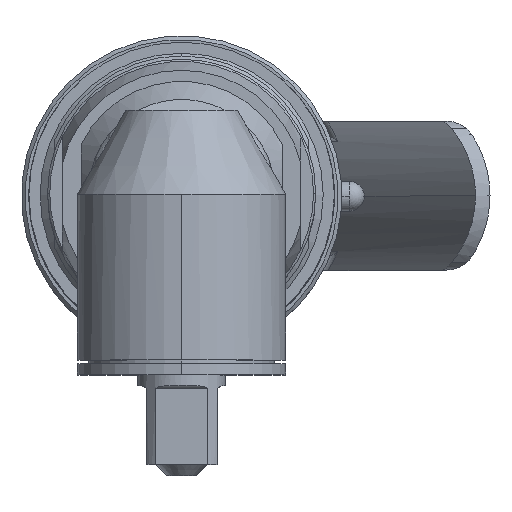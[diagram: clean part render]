
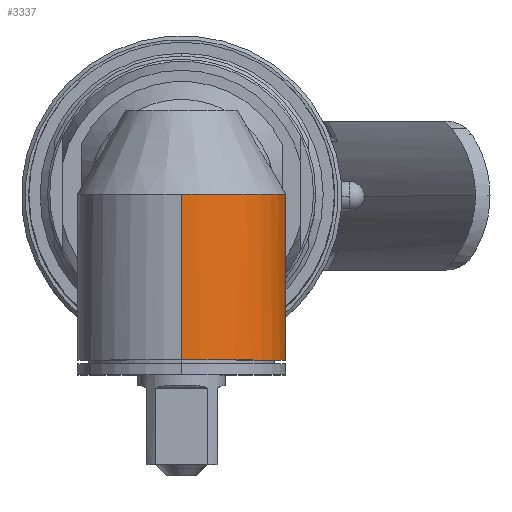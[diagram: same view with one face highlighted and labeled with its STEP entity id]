
A CAD part, top view. The second image highlights one B-rep face of the part: STEP entity #3337.
In plain terms, the highlighted cylindrical face has radius 14 mm (diameter 28 mm), a partial arc.
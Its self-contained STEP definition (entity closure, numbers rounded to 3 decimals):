
#3322 = ORIENTED_EDGE ( 'NONE', *, *, #3323, .T. ) ;
#3323 = EDGE_CURVE ( 'NONE', #3351, #3324, #20353, .T. ) ;
#3324 = VERTEX_POINT ( 'NONE', #20354 ) ;
#3325 = ORIENTED_EDGE ( 'NONE', *, *, #3326, .F. ) ;
#3326 = EDGE_CURVE ( 'NONE', #3327, #3324, #20361, .T. ) ;
#3327 = VERTEX_POINT ( 'NONE', #20356 ) ;
#3328 = ORIENTED_EDGE ( 'NONE', *, *, #3329, .F. ) ;
#3329 = EDGE_CURVE ( 'NONE', #3341, #3327, #20396, .T. ) ;
#3337 = ADVANCED_FACE ( 'NONE', ( #20445 ), #20443, .T. ) ;
#3338 = EDGE_LOOP ( 'NONE', ( #3339, #3343, #3346, #3349, #3322, #3325, #3328 ) ) ;
#3339 = ORIENTED_EDGE ( 'NONE', *, *, #3340, .T. ) ;
#3340 = EDGE_CURVE ( 'NONE', #3341, #3342, #20438, .T. ) ;
#3341 = VERTEX_POINT ( 'NONE', #20434 ) ;
#3342 = VERTEX_POINT ( 'NONE', #20433 ) ;
#3343 = ORIENTED_EDGE ( 'NONE', *, *, #3344, .T. ) ;
#3344 = EDGE_CURVE ( 'NONE', #3342, #3345, #20432, .T. ) ;
#3345 = VERTEX_POINT ( 'NONE', #20428 ) ;
#3346 = ORIENTED_EDGE ( 'NONE', *, *, #3347, .T. ) ;
#3347 = EDGE_CURVE ( 'NONE', #3345, #3348, #20425, .T. ) ;
#3348 = VERTEX_POINT ( 'NONE', #20427 ) ;
#3349 = ORIENTED_EDGE ( 'NONE', *, *, #3350, .F. ) ;
#3350 = EDGE_CURVE ( 'NONE', #3351, #3348, #20426, .T. ) ;
#3351 = VERTEX_POINT ( 'NONE', #20465 ) ;
#20352 = CARTESIAN_POINT ( 'NONE',  ( 4.323, -11.734, -13.32 ) ) ;
#20353 = B_SPLINE_CURVE_WITH_KNOTS ( 'NONE', 3,
 ( #20355, #20352, #20420, #20419, #20418, #20417, #20416, #20415, #20414, #20413, #20412, #20411, #20410, #20409, #20408, #20407, #20406, #20405, #20404, #20403, #20402, #20401, #20400, #20399, #20398, #20397 ),
 .UNSPECIFIED., .F., .F.,
 ( 4, 2, 2, 2, 2, 2, 2, 2, 2, 2, 2, 2, 4 ),
 ( 0.025, 0.026, 0.027, 0.029, 0.03, 0.032, 0.034, 0.036, 0.038, 0.039, 0.04, 0.041, 0.042 ),
 .UNSPECIFIED. ) ;
#20354 = CARTESIAN_POINT ( 'NONE',  ( 12.497, -0.258, -6.31 ) ) ;
#20355 = CARTESIAN_POINT ( 'NONE',  ( 4., -11.843, -13.416 ) ) ;
#20356 = CARTESIAN_POINT ( 'NONE',  ( 0., -0.258, 14. ) ) ;
#20357 = DIRECTION ( 'NONE',  ( 0., 0., 1. ) ) ;
#20358 = DIRECTION ( 'NONE',  ( 0., 1., 0. ) ) ;
#20359 = CARTESIAN_POINT ( 'NONE',  ( 0., -0.258, 0. ) ) ;
#20360 = AXIS2_PLACEMENT_3D ( 'NONE', #20359, #20358, #20357 ) ;
#20361 = CIRCLE ( 'NONE', #20360, 14. ) ;
#20393 = DIRECTION ( 'NONE',  ( 0., 1., 0. ) ) ;
#20394 = VECTOR ( 'NONE', #20393, 1000. ) ;
#20395 = CARTESIAN_POINT ( 'NONE',  ( 0., 18.453, 14. ) ) ;
#20396 = LINE ( 'NONE', #20395, #20394 ) ;
#20397 = CARTESIAN_POINT ( 'NONE',  ( 12.497, -0.258, -6.31 ) ) ;
#20398 = CARTESIAN_POINT ( 'NONE',  ( 12.49, -0.617, -6.325 ) ) ;
#20399 = CARTESIAN_POINT ( 'NONE',  ( 12.467, -0.974, -6.371 ) ) ;
#20400 = CARTESIAN_POINT ( 'NONE',  ( 12.393, -1.666, -6.512 ) ) ;
#20401 = CARTESIAN_POINT ( 'NONE',  ( 12.343, -2.002, -6.608 ) ) ;
#20402 = CARTESIAN_POINT ( 'NONE',  ( 12.218, -2.66, -6.836 ) ) ;
#20403 = CARTESIAN_POINT ( 'NONE',  ( 12.143, -2.984, -6.97 ) ) ;
#20404 = CARTESIAN_POINT ( 'NONE',  ( 11.972, -3.611, -7.26 ) ) ;
#20405 = CARTESIAN_POINT ( 'NONE',  ( 11.876, -3.914, -7.417 ) ) ;
#20406 = CARTESIAN_POINT ( 'NONE',  ( 11.559, -4.799, -7.908 ) ) ;
#20407 = CARTESIAN_POINT ( 'NONE',  ( 11.31, -5.357, -8.264 ) ) ;
#20408 = CARTESIAN_POINT ( 'NONE',  ( 10.736, -6.432, -8.998 ) ) ;
#20409 = CARTESIAN_POINT ( 'NONE',  ( 10.413, -6.941, -9.372 ) ) ;
#20410 = CARTESIAN_POINT ( 'NONE',  ( 9.701, -7.906, -10.107 ) ) ;
#20411 = CARTESIAN_POINT ( 'NONE',  ( 9.31, -8.363, -10.471 ) ) ;
#20412 = CARTESIAN_POINT ( 'NONE',  ( 8.666, -9.014, -10.999 ) ) ;
#20413 = CARTESIAN_POINT ( 'NONE',  ( 8.441, -9.225, -11.173 ) ) ;
#20414 = CARTESIAN_POINT ( 'NONE',  ( 7.971, -9.634, -11.513 ) ) ;
#20415 = CARTESIAN_POINT ( 'NONE',  ( 7.725, -9.833, -11.68 ) ) ;
#20416 = CARTESIAN_POINT ( 'NONE',  ( 6.964, -10.399, -12.16 ) ) ;
#20417 = CARTESIAN_POINT ( 'NONE',  ( 6.424, -10.743, -12.455 ) ) ;
#20418 = CARTESIAN_POINT ( 'NONE',  ( 5.558, -11.201, -12.853 ) ) ;
#20419 = CARTESIAN_POINT ( 'NONE',  ( 5.26, -11.345, -12.979 ) ) ;
#20420 = CARTESIAN_POINT ( 'NONE',  ( 4.642, -11.611, -13.212 ) ) ;
#20421 = CARTESIAN_POINT ( 'NONE',  ( 4., -18.337, -13.416 ) ) ;
#20422 = CARTESIAN_POINT ( 'NONE',  ( 2.7, -18.113, -13.804 ) ) ;
#20423 = CARTESIAN_POINT ( 'NONE',  ( 1.357, -18., -14. ) ) ;
#20424 = CARTESIAN_POINT ( 'NONE',  ( 0., -18., -14. ) ) ;
#20425 =( BOUNDED_CURVE ( )  B_SPLINE_CURVE ( 3, ( #20424, #20423, #20422, #20421 ),
 .UNSPECIFIED., .F., .F. ) 
 B_SPLINE_CURVE_WITH_KNOTS ( ( 4, 4 ),
 ( 0., 0.29 ),
 .UNSPECIFIED. ) 
 CURVE ( )  GEOMETRIC_REPRESENTATION_ITEM ( )  RATIONAL_B_SPLINE_CURVE ( ( 1., 0.993, 0.993, 1. ) ) 
 REPRESENTATION_ITEM ( '' )  );
#20426 = LINE ( 'NONE', #20468, #20467 ) ;
#20427 = CARTESIAN_POINT ( 'NONE',  ( 4., -18.337, -13.416 ) ) ;
#20428 = CARTESIAN_POINT ( 'NONE',  ( 0., -18., -14. ) ) ;
#20429 = DIRECTION ( 'NONE',  ( 0., 1., 0. ) ) ;
#20430 = VECTOR ( 'NONE', #20429, 1000. ) ;
#20431 = CARTESIAN_POINT ( 'NONE',  ( 0., 18.453, -14. ) ) ;
#20432 = LINE ( 'NONE', #20431, #20430 ) ;
#20433 = CARTESIAN_POINT ( 'NONE',  ( 0., -22.5, -14. ) ) ;
#20434 = CARTESIAN_POINT ( 'NONE',  ( 0., -22.5, 14. ) ) ;
#20435 = DIRECTION ( 'NONE',  ( 0., 0., 1. ) ) ;
#20436 = DIRECTION ( 'NONE',  ( 0., 1., 0. ) ) ;
#20437 = AXIS2_PLACEMENT_3D ( 'NONE', #20444, #20436, #20435 ) ;
#20438 = CIRCLE ( 'NONE', #20437, 14. ) ;
#20439 = DIRECTION ( 'NONE',  ( 0., 0., 1. ) ) ;
#20440 = DIRECTION ( 'NONE',  ( 0., 1., 0. ) ) ;
#20441 = CARTESIAN_POINT ( 'NONE',  ( 0., 18.453, 0. ) ) ;
#20442 = AXIS2_PLACEMENT_3D ( 'NONE', #20441, #20440, #20439 ) ;
#20443 = CYLINDRICAL_SURFACE ( 'NONE', #20442, 14. ) ;
#20444 = CARTESIAN_POINT ( 'NONE',  ( 0., -22.5, 0. ) ) ;
#20445 = FACE_OUTER_BOUND ( 'NONE', #3338, .T. ) ;
#20465 = CARTESIAN_POINT ( 'NONE',  ( 4., -11.843, -13.416 ) ) ;
#20466 = DIRECTION ( 'NONE',  ( 0., -1., 0. ) ) ;
#20467 = VECTOR ( 'NONE', #20466, 1000. ) ;
#20468 = CARTESIAN_POINT ( 'NONE',  ( 4., 18.453, -13.416 ) ) ;
